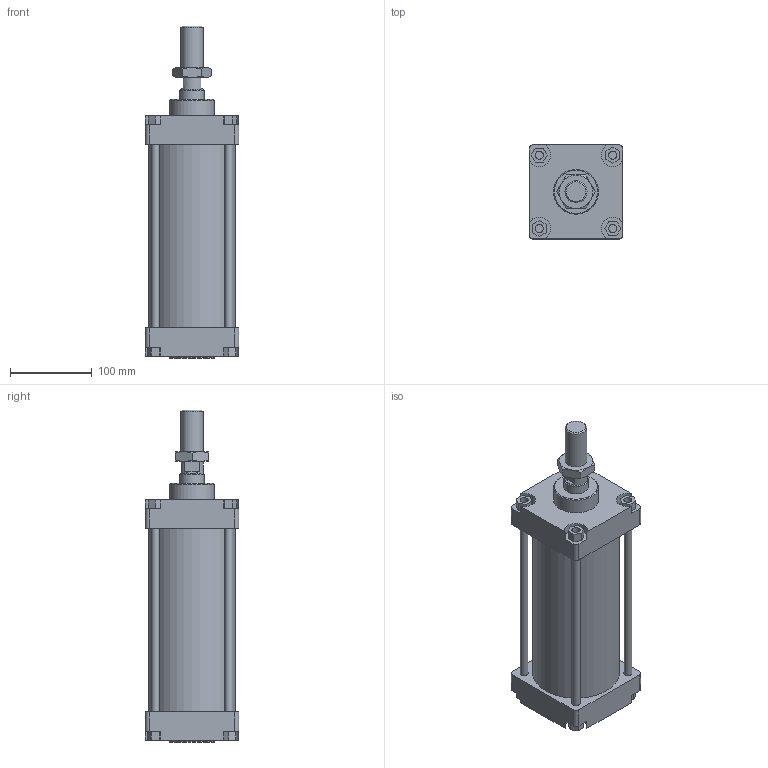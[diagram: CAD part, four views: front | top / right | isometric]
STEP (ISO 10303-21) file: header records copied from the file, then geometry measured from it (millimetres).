
FILE_DESCRIPTION(/* description */ (''),/* implementation_level */ '2;1');
FILE_NAME(/* name */ 'I:\Area Tecnica\Disegni\VARIE-3D\Componenti\CSP\Ø100\130#_100_####_###\1303_100_0150_01A.stp',/* time_stamp */ '2016-11-24T14:04:27+01:00',/* author */ ('Maniean1'),/* organization */ ('Pneumax S.p.A.'),/* preprocessor_version */ 'ST-DEVELOPER v15.2',/* originating_system */ 'Autodesk Inventor 2014',/* authorisation */ '');
FILE_SCHEMA (('AUTOMOTIVE_DESIGN { 1 0 10303 214 3 1 1 }'));
Length unit declared in the file: millimetre
Products named in the file (6): C_130#_100_0150; Testata anteriore_100; Testata posteriore_100; S_1303_100_0150_01A; 1300_100_18F; 1303_100_0150_01A
Bounding box: 115 x 115 x 407 mm (x, y, z)
Volume: 1933626.7 mm3; surface area: 358966.8 mm2
Topology: 9 solids, 9 shells, 162 faces, 380 edges, 249 vertices
Faces by surface type: plane 105, cylinder 42, cone 15
Full cylindrical faces by diameter (mm): 10 x12, 19 x2, 21.8 x1, 24.835 x1, 27 x1, 28 x1, 30 x3, 55 x2, 100 x2, 106 x1
Entity records: 4530 total; most frequent: CARTESIAN_POINT 785, DIRECTION 764, ORIENTED_EDGE 672, EDGE_CURVE 336, AXIS2_PLACEMENT_3D 271, VERTEX_POINT 244, EDGE_LOOP 236, LINE 222
